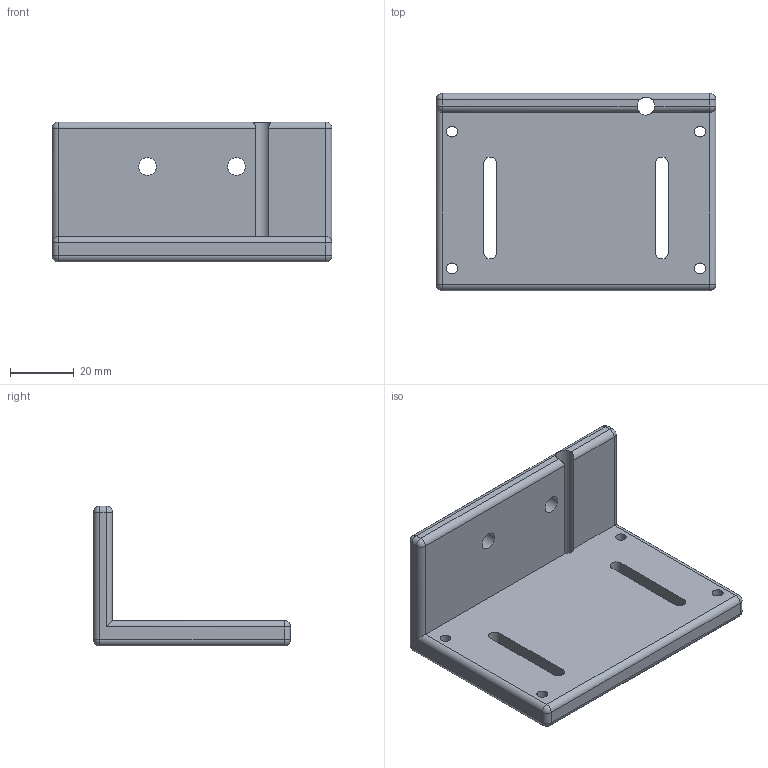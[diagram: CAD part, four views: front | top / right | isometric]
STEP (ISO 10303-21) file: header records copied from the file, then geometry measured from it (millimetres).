
FILE_DESCRIPTION(('Open CASCADE Model'),'2;1');
FILE_NAME('Open CASCADE Shape Model','2026-11-04T08:45:15',('Author'),( 'Open CASCADE'),'Open CASCADE STEP processor 7.8','Open CASCADE 7.8' ,'Unknown');
FILE_SCHEMA(('AUTOMOTIVE_DESIGN { 1 0 10303 214 1 1 1 1 }'));
Length unit declared in the file: millimetre
Products named in the file (1): Open CASCADE STEP translator 7.8 7
Bounding box: 88 x 62 x 44 mm (x, y, z)
Volume: 58355.6 mm3; surface area: 20741.5 mm2
Topology: 1 solids, 1 shells, 53 faces, 136 edges, 73 vertices
Faces by surface type: cylinder 29, plane 14, sphere 10
Full cylindrical faces by diameter (mm): 3.4 x4, 5.5 x2, 5.6 x1
Entity records: 3479 total; most frequent: CARTESIAN_POINT 891, DIRECTION 495, LINE 256, VECTOR 256, ORIENTED_EDGE 252, PCURVE 252, DEFINITIONAL_REPRESENTATION 252, EDGE_CURVE 126
